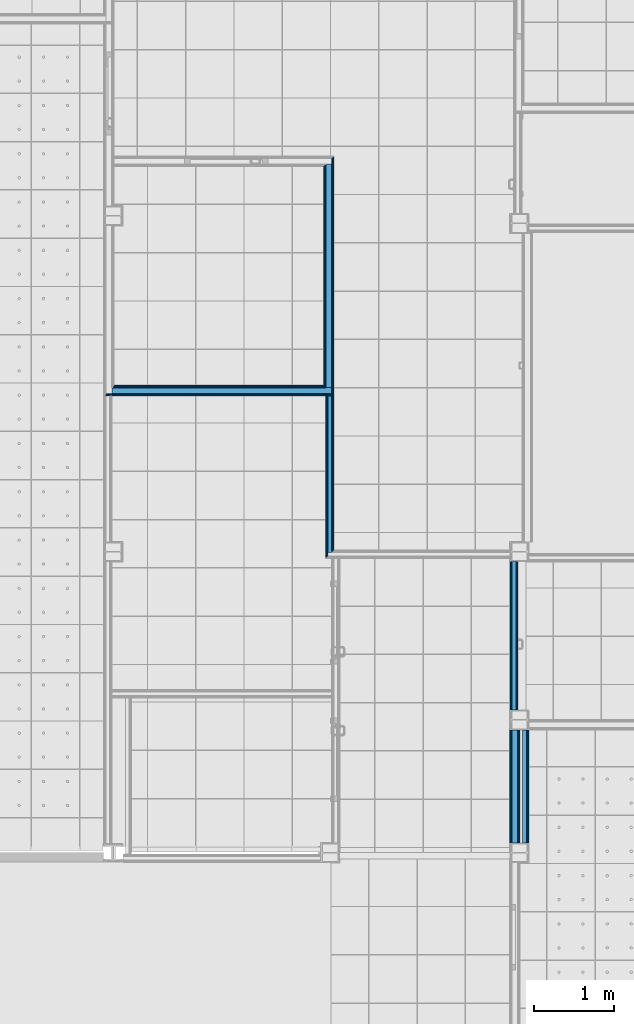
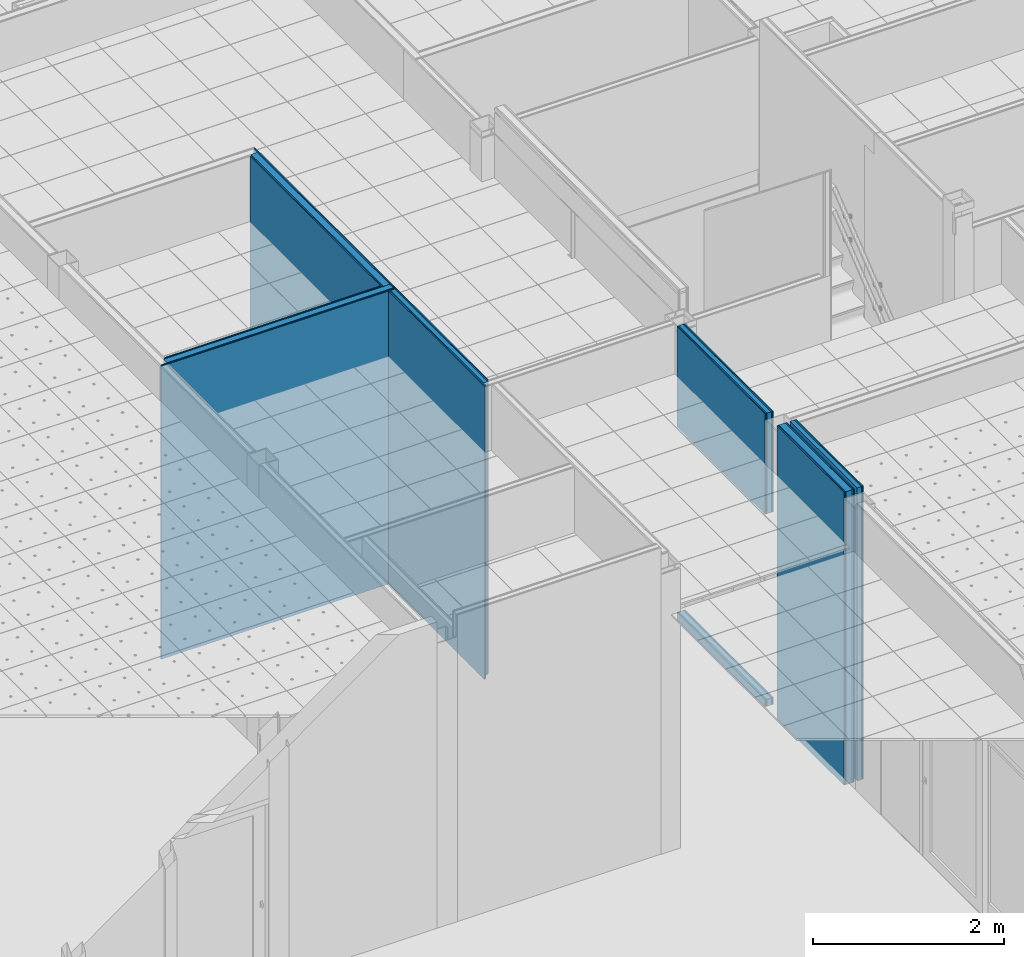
# One storey, part 78 of 338: 28 building element parts, 1 opening, 6 elements without a shape of their own.
"""IFC2X3 building model written with IfcOpenShell, lengths in millimetres."""

from ifc_helpers import new_model, entity, si_unit, converted_unit, derived_unit, money_unit, direction, frame, origin_with_axes, place, context, subcontext, project, spatial, faceted_brep, material, type_object, element, aggregate, save


model = new_model("IFC2X3")

# Units and contexts
model_context = context("Model", 3, precision=0.01, world=origin_with_axes(), true_north=direction((0.0, 1.0)))
plan_context = context("Plan", 3, precision=0.01, world=origin_with_axes(), true_north=direction((0.0, 1.0)))
body_context = subcontext(model_context, "Body", "Model", "MODEL_VIEW")
ifc_project = project(units=[si_unit("LENGTHUNIT", "METRE", prefix="MILLI"), si_unit("AREAUNIT", "SQUARE_METRE"), si_unit("VOLUMEUNIT", "CUBIC_METRE"), converted_unit("PLANEANGLEUNIT", "DEGREE", entity("IfcPlaneAngleMeasure", 0.0174532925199), si_unit("PLANEANGLEUNIT", "RADIAN"), dimensions=[0, 0, 0, 0, 0, 0, 0]), money_unit("EUR"), converted_unit("TIMEUNIT", "Year", entity("IfcTimeMeasure", 31556926.0), si_unit("TIMEUNIT", "SECOND"), dimensions=[0, 0, 1, 0, 0, 0, 0]), si_unit("MASSUNIT", "GRAM", prefix="KILO"), si_unit("THERMODYNAMICTEMPERATUREUNIT", "DEGREE_CELSIUS"), si_unit("LUMINOUSINTENSITYUNIT", "LUMEN"), si_unit("ENERGYUNIT", "JOULE", prefix="MEGA"), derived_unit("THERMALCONDUCTANCEUNIT", [(si_unit("POWERUNIT", "WATT"), 1), (si_unit("LENGTHUNIT", "METRE"), -1), (si_unit("THERMODYNAMICTEMPERATUREUNIT", "KELVIN"), -1)]), derived_unit("SPECIFICHEATCAPACITYUNIT", [(si_unit("ENERGYUNIT", "JOULE"), 1), (si_unit("MASSUNIT", "GRAM", prefix="KILO"), -1), (si_unit("THERMODYNAMICTEMPERATUREUNIT", "KELVIN"), -1)]), derived_unit("MASSDENSITYUNIT", [(si_unit("MASSUNIT", "GRAM", prefix="KILO"), 1), (si_unit("VOLUMEUNIT", "CUBIC_METRE"), -1)])], contexts=[model_context, plan_context])

# Site, building, storey
site_placement = place(None, origin_with_axes())
site = spatial("IfcSite", under=ifc_project, at=site_placement, Name="Fortuinstraat Woensdrecht", CompositionType="ELEMENT")
building_placement = place(site_placement, origin_with_axes())
building = spatial("IfcBuilding", under=site, at=building_placement, Name="IKC Fortuna", CompositionType="ELEMENT")
storey_placement = place(building_placement, origin_with_axes())
storey = spatial("IfcBuildingStorey", under=building, at=storey_placement, Name="00 begane grond", CompositionType="ELEMENT", Elevation=0.0)

# Wall, opening, building element parts
wall_type_1 = type_object("IfcWallType", Name="MS100 2.50.2A 100", PredefinedType="NOTDEFINED")
wall_1_placement = place(storey_placement, frame((25497.9349765, 19799.7966283, -90.0), z_axis=(0.0, 0.0, 1.0), x_axis=(0.0, -1.0, 0.0)))
wall_1 = element("IfcWall", 1, at=wall_1_placement, inside=storey, type_object=wall_type_1, Name="22_Wand_Binnenwand")
opening_placement = place(wall_1_placement, frame((922.5, 0.0, 90.0), z_axis=(0.0, 0.0, 1.0), x_axis=(1.0, 0.0, 0.0)))
element("IfcOpeningElement", 2, at=opening_placement, cuts=wall_1, Name="32_Deur_h.08", context=body_context, shape_type="Brep", body=[
    faceted_brep([(922.5, -100.0, 2367.0), (922.5, -100.0, 0.0), (922.5, 200.0, 0.0), (922.5, 200.0, 2367.0), (-922.5, -100.0, 2367.0), (-922.5, -100.0, 0.0), (-922.5, 200.0, 0.0), (-922.5, 200.0, 2367.0)], [[[0, 1, 2, 3]], [[0, 4, 5, 1]], [[1, 5, 6, 2]], [[3, 2, 6, 7]], [[4, 0, 3, 7]], [[5, 4, 7, 6]]]),
])
ifc_material_1 = material(Name="Gipsplaat")
building_element_part_1_placement = place(wall_1_placement, origin_with_axes())
building_element_part_1 = element("IfcBuildingElementPart", 3, at=building_element_part_1_placement, material=ifc_material_1, Name="Gipsplaat", context=body_context, shape_type="Brep", body=[
    faceted_brep([(0.0, 87.5, 90.0), (0.0, 100.0, 90.0), (0.0, 100.0, 0.0), (0.0, 87.5, 0.0), (1845.0, 100.0, 90.0), (1845.0, 87.5, 90.0), (1845.0, 100.0, 0.0), (1845.0, 87.5, 0.0)], [[[0, 1, 2, 3]], [[4, 1, 0, 5]], [[1, 4, 6, 2]], [[7, 3, 2, 6]], [[5, 0, 3, 7]], [[4, 5, 7, 6]]]),
    faceted_brep([(1845.0, 100.0, 2457.0), (0.0, 100.0, 2457.0), (0.0, 100.0, 3740.0), (1845.0, 100.0, 3740.0), (0.0, 87.5, 2457.0), (1845.0, 87.5, 2457.0), (0.0, 87.5, 3740.0), (1845.0, 87.5, 3740.0)], [[[0, 1, 2, 3]], [[4, 1, 0, 5]], [[1, 4, 6, 2]], [[3, 2, 6, 7]], [[5, 0, 3, 7]], [[4, 5, 7, 6]]]),
])
building_element_part_2_placement = place(wall_1_placement, origin_with_axes())
building_element_part_2 = element("IfcBuildingElementPart", 4, at=building_element_part_2_placement, material=ifc_material_1, Name="Gipsplaat", context=body_context, shape_type="Brep", body=[
    faceted_brep([(0.0, 75.0, 90.0), (0.0, 87.5, 90.0), (0.0, 87.5, 0.0), (0.0, 75.0, 0.0), (1845.0, 87.5, 90.0), (1845.0, 75.0, 90.0), (1845.0, 87.5, 0.0), (1845.0, 75.0, 0.0)], [[[0, 1, 2, 3]], [[4, 1, 0, 5]], [[1, 4, 6, 2]], [[7, 3, 2, 6]], [[5, 0, 3, 7]], [[4, 5, 7, 6]]]),
    faceted_brep([(1845.0, 87.5, 2457.0), (0.0, 87.5, 2457.0), (0.0, 87.5, 3740.0), (1845.0, 87.5, 3740.0), (0.0, 75.0, 2457.0), (1845.0, 75.0, 2457.0), (0.0, 75.0, 3740.0), (1845.0, 75.0, 3740.0)], [[[0, 1, 2, 3]], [[4, 1, 0, 5]], [[1, 4, 6, 2]], [[3, 2, 6, 7]], [[5, 0, 3, 7]], [[4, 5, 7, 6]]]),
])
ifc_material_2 = material(Name="Isolatie - Steenwol LSW")
building_element_part_3_placement = place(wall_1_placement, origin_with_axes())
building_element_part_3 = element("IfcBuildingElementPart", 5, at=building_element_part_3_placement, material=ifc_material_2, Name="Isolatie - Steenwol LSW", context=body_context, shape_type="Brep", body=[
    faceted_brep([(0.0, 25.0, 90.0), (0.0, 75.0, 90.0), (0.0, 75.0, 0.0), (0.0, 25.0, 0.0), (1845.0, 75.0, 90.0), (1845.0, 25.0, 90.0), (1845.0, 75.0, 0.0), (1845.0, 25.0, 0.0)], [[[0, 1, 2, 3]], [[4, 1, 0, 5]], [[1, 4, 6, 2]], [[7, 3, 2, 6]], [[5, 0, 3, 7]], [[4, 5, 7, 6]]]),
    faceted_brep([(1845.0, 75.0, 2457.0), (0.0, 75.0, 2457.0), (0.0, 75.0, 3740.0), (1845.0, 75.0, 3740.0), (0.0, 25.0, 2457.0), (1845.0, 25.0, 2457.0), (0.0, 25.0, 3740.0), (1845.0, 25.0, 3740.0)], [[[0, 1, 2, 3]], [[4, 1, 0, 5]], [[1, 4, 6, 2]], [[3, 2, 6, 7]], [[5, 0, 3, 7]], [[4, 5, 7, 6]]]),
])
building_element_part_4_placement = place(wall_1_placement, origin_with_axes())
building_element_part_4 = element("IfcBuildingElementPart", 6, at=building_element_part_4_placement, material=ifc_material_1, Name="Gipsplaat", context=body_context, shape_type="Brep", body=[
    faceted_brep([(0.0, 12.5, 90.0), (0.0, 25.0, 90.0), (0.0, 25.0, 0.0), (0.0, 12.5, 0.0), (1845.0, 25.0, 90.0), (1845.0, 12.5, 90.0), (1845.0, 25.0, 0.0), (1845.0, 12.5, 0.0)], [[[0, 1, 2, 3]], [[4, 1, 0, 5]], [[1, 4, 6, 2]], [[7, 3, 2, 6]], [[5, 0, 3, 7]], [[4, 5, 7, 6]]]),
    faceted_brep([(1845.0, 25.0, 2457.0), (0.0, 25.0, 2457.0), (0.0, 25.0, 3740.0), (1845.0, 25.0, 3740.0), (0.0, 12.5, 2457.0), (1845.0, 12.5, 2457.0), (0.0, 12.5, 3740.0), (1845.0, 12.5, 3740.0)], [[[0, 1, 2, 3]], [[4, 1, 0, 5]], [[1, 4, 6, 2]], [[3, 2, 6, 7]], [[5, 0, 3, 7]], [[4, 5, 7, 6]]]),
])
building_element_part_5_placement = place(wall_1_placement, origin_with_axes())
building_element_part_5 = element("IfcBuildingElementPart", 7, at=building_element_part_5_placement, material=ifc_material_1, Name="Gipsplaat", context=body_context, shape_type="Brep", body=[
    faceted_brep([(0.0, 0.0, 90.0), (0.0, 12.5, 90.0), (0.0, 12.5, 0.0), (0.0, 0.0, 0.0), (1845.0, 12.5, 90.0), (1845.0, 0.0, 90.0), (1845.0, 12.5, 0.0), (1845.0, 0.0, 0.0)], [[[0, 1, 2, 3]], [[4, 1, 0, 5]], [[1, 4, 6, 2]], [[7, 3, 2, 6]], [[5, 0, 3, 7]], [[4, 5, 7, 6]]]),
    faceted_brep([(1845.0, 12.5, 2457.0), (0.0, 12.5, 2457.0), (0.0, 12.5, 3740.0), (1845.0, 12.5, 3740.0), (0.0, 0.0, 2457.0), (1845.0, 0.0, 2457.0), (0.0, 0.0, 3740.0), (1845.0, 0.0, 3740.0)], [[[0, 1, 2, 3]], [[4, 1, 0, 5]], [[1, 4, 6, 2]], [[3, 2, 6, 7]], [[5, 0, 3, 7]], [[4, 5, 7, 6]]]),
])
aggregate(wall_1, [building_element_part_1, building_element_part_2, building_element_part_3, building_element_part_4, building_element_part_5])

# Wall, building element parts
wall_type_2 = type_object("IfcWallType", Name="MS125 2.75.2A 125", PredefinedType="NOTDEFINED")
wall_2_placement = place(storey_placement, frame((25497.9349765, 17709.7966283, -90.0), z_axis=(0.0, 0.0, 1.0), x_axis=(0.0, -1.0, 0.0)))
wall_2 = element("IfcWall", 8, at=wall_2_placement, inside=storey, type_object=wall_type_2, Name="22_Wand_Binnenwand")
building_element_part_6_placement = place(wall_2_placement, origin_with_axes())
building_element_part_6 = element("IfcBuildingElementPart", 9, at=building_element_part_6_placement, material=ifc_material_1, Name="Gipsplaat", context=body_context, shape_type="Brep", body=[
    faceted_brep([(1405.0, 112.5, 3740.0), (1405.0, 125.0, 3740.0), (0.0, 125.0, 3740.0), (0.0, 112.5, 3740.0), (1405.0, 112.5, 0.0), (1405.0, 125.0, 0.0), (0.0, 125.0, 0.0), (0.0, 112.5, 0.0)], [[[0, 1, 2, 3]], [[0, 4, 5, 1]], [[1, 5, 6, 2]], [[3, 2, 6, 7]], [[4, 0, 3, 7]], [[5, 4, 7, 6]]]),
])
building_element_part_7_placement = place(wall_2_placement, origin_with_axes())
building_element_part_7 = element("IfcBuildingElementPart", 10, at=building_element_part_7_placement, material=ifc_material_1, Name="Gipsplaat", context=body_context, shape_type="Brep", body=[
    faceted_brep([(1405.0, 100.0, 3740.0), (1405.0, 112.5, 3740.0), (0.0, 112.5, 3740.0), (0.0, 100.0, 3740.0), (1405.0, 100.0, 0.0), (1405.0, 112.5, 0.0), (0.0, 112.5, 0.0), (0.0, 100.0, 0.0)], [[[0, 1, 2, 3]], [[0, 4, 5, 1]], [[1, 5, 6, 2]], [[3, 2, 6, 7]], [[4, 0, 3, 7]], [[5, 4, 7, 6]]]),
])
building_element_part_8_placement = place(wall_2_placement, origin_with_axes())
building_element_part_8 = element("IfcBuildingElementPart", 11, at=building_element_part_8_placement, material=ifc_material_2, Name="Isolatie - Steenwol LSW", context=body_context, shape_type="Brep", body=[
    faceted_brep([(1405.0, 25.0, 3740.0), (1405.0, 100.0, 3740.0), (0.0, 100.0, 3740.0), (0.0, 25.0, 3740.0), (1405.0, 25.0, 0.0), (1405.0, 100.0, 0.0), (0.0, 100.0, 0.0), (0.0, 25.0, 0.0)], [[[0, 1, 2, 3]], [[0, 4, 5, 1]], [[1, 5, 6, 2]], [[3, 2, 6, 7]], [[4, 0, 3, 7]], [[5, 4, 7, 6]]]),
])
building_element_part_9_placement = place(wall_2_placement, origin_with_axes())
building_element_part_9 = element("IfcBuildingElementPart", 12, at=building_element_part_9_placement, material=ifc_material_1, Name="Gipsplaat", context=body_context, shape_type="Brep", body=[
    faceted_brep([(1405.0, 12.5, 3740.0), (1405.0, 25.0, 3740.0), (0.0, 25.0, 3740.0), (0.0, 12.5, 3740.0), (1405.0, 12.5, 0.0), (1405.0, 25.0, 0.0), (0.0, 25.0, 0.0), (0.0, 12.5, 0.0)], [[[0, 1, 2, 3]], [[0, 4, 5, 1]], [[1, 5, 6, 2]], [[3, 2, 6, 7]], [[4, 0, 3, 7]], [[5, 4, 7, 6]]]),
])
building_element_part_10_placement = place(wall_2_placement, origin_with_axes())
building_element_part_10 = element("IfcBuildingElementPart", 13, at=building_element_part_10_placement, material=ifc_material_1, Name="Gipsplaat", context=body_context, shape_type="Brep", body=[
    faceted_brep([(1405.0, 0.0, 3740.0), (1405.0, 12.5, 3740.0), (0.0, 12.5, 3740.0), (0.0, 0.0, 3740.0), (1405.0, 0.0, 0.0), (1405.0, 12.5, 0.0), (0.0, 12.5, 0.0), (0.0, 0.0, 0.0)], [[[0, 1, 2, 3]], [[0, 4, 5, 1]], [[1, 5, 6, 2]], [[3, 2, 6, 7]], [[4, 0, 3, 7]], [[5, 4, 7, 6]]]),
])
aggregate(wall_2, [building_element_part_6, building_element_part_7, building_element_part_8, building_element_part_9, building_element_part_10])

wall_3_placement = place(storey_placement, frame((23307.9349765, 21988.1391841, -90.0), z_axis=(0.0, 0.0, 1.0), x_axis=(-1.0, 0.0, 0.0)))
wall_3 = element("IfcWall", 14, at=wall_3_placement, inside=storey, type_object=wall_type_2, Name="22_Wand_Binnenwand")
building_element_part_11_placement = place(wall_3_placement, origin_with_axes())
building_element_part_11 = element("IfcBuildingElementPart", 15, at=building_element_part_11_placement, material=ifc_material_1, Name="Gipsplaat", context=body_context, shape_type="Brep", body=[
    faceted_brep([(2843.5, 125.0, 3740.0), (0.0, 125.0, 3740.0), (0.0, 112.5, 3740.0), (2843.5, 112.5, 3740.0), (2843.5, 125.0, 0.0), (0.0, 125.0, 0.0), (0.0, 112.5, 0.0), (2843.5, 112.5, 0.0)], [[[0, 1, 2, 3]], [[4, 5, 1, 0]], [[2, 1, 5, 6]], [[3, 2, 6, 7]], [[3, 7, 4, 0]], [[7, 6, 5, 4]]]),
])
building_element_part_12_placement = place(wall_3_placement, origin_with_axes())
building_element_part_12 = element("IfcBuildingElementPart", 16, at=building_element_part_12_placement, material=ifc_material_1, Name="Gipsplaat", context=body_context, shape_type="Brep", body=[
    faceted_brep([(2831.0, 112.5, 3740.0), (12.5, 112.5, 3740.0), (12.5, 100.0, 3740.0), (2831.0, 100.0, 3740.0), (2831.0, 112.5, 0.0), (12.5, 112.5, 0.0), (12.5, 100.0, 0.0), (2831.0, 100.0, 0.0)], [[[0, 1, 2, 3]], [[4, 5, 1, 0]], [[2, 1, 5, 6]], [[3, 2, 6, 7]], [[3, 7, 4, 0]], [[7, 6, 5, 4]]]),
])
building_element_part_13_placement = place(wall_3_placement, origin_with_axes())
building_element_part_13 = element("IfcBuildingElementPart", 17, at=building_element_part_13_placement, material=ifc_material_2, Name="Isolatie - Steenwol LSW", context=body_context, shape_type="Brep", body=[
    faceted_brep([(2756.0, 100.0, 3740.0), (25.0, 100.0, 3740.0), (25.0, 25.0, 3740.0), (2756.0, 25.0, 3740.0), (2756.0, 100.0, 0.0), (25.0, 100.0, 0.0), (25.0, 25.0, 0.0), (2756.0, 25.0, 0.0)], [[[0, 1, 2, 3]], [[4, 5, 1, 0]], [[2, 1, 5, 6]], [[3, 2, 6, 7]], [[3, 7, 4, 0]], [[7, 6, 5, 4]]]),
])
building_element_part_14_placement = place(wall_3_placement, origin_with_axes())
building_element_part_14 = element("IfcBuildingElementPart", 18, at=building_element_part_14_placement, material=ifc_material_1, Name="Gipsplaat", context=body_context, shape_type="Brep", body=[
    faceted_brep([(2743.5, 25.0, 3740.0), (100.0, 25.0, 3740.0), (100.0, 12.5, 3740.0), (2743.5, 12.5, 3740.0), (2743.5, 25.0, 0.0), (100.0, 25.0, 0.0), (100.0, 12.5, 0.0), (2743.5, 12.5, 0.0)], [[[0, 1, 2, 3]], [[4, 5, 1, 0]], [[2, 1, 5, 6]], [[3, 2, 6, 7]], [[3, 7, 4, 0]], [[7, 6, 5, 4]]]),
])
building_element_part_15_placement = place(wall_3_placement, origin_with_axes())
building_element_part_15 = element("IfcBuildingElementPart", 19, at=building_element_part_15_placement, material=ifc_material_1, Name="Gipsplaat", context=body_context, shape_type="Brep", body=[
    faceted_brep([(2731.0, 12.5, 3740.0), (112.5, 12.5, 3740.0), (112.5, 0.0, 3740.0), (2731.0, 0.0, 3740.0), (2731.0, 12.5, 0.0), (112.5, 12.5, 0.0), (112.5, 0.0, 0.0), (2731.0, 0.0, 0.0)], [[[0, 1, 2, 3]], [[4, 5, 1, 0]], [[2, 1, 5, 6]], [[3, 2, 6, 7]], [[3, 7, 4, 0]], [[7, 6, 5, 4]]]),
])
aggregate(wall_3, [building_element_part_11, building_element_part_12, building_element_part_13, building_element_part_14, building_element_part_15])

wall_4_placement = place(storey_placement, frame((23307.9349765, 21988.1391841, -90.0), z_axis=(0.0, 0.0, 1.0), x_axis=(0.0, 1.0, 0.0)))
wall_4 = element("IfcWall", 20, at=wall_4_placement, inside=storey, type_object=wall_type_2, Name="22_Wand_Binnenwand")
building_element_part_16_placement = place(wall_4_placement, origin_with_axes())
building_element_part_16 = element("IfcBuildingElementPart", 21, at=building_element_part_16_placement, material=ifc_material_1, Name="Gipsplaat", context=body_context, shape_type="Brep", body=[
    faceted_brep([(2725.05195431, 125.0, 3740.0), (0.0, 125.0, 3740.0), (0.0, 112.5, 3740.0), (2725.05195431, 112.5, 3740.0), (2725.05195431, 125.0, 0.0), (0.0, 125.0, 0.0), (0.0, 112.5, 0.0), (2725.05195431, 112.5, 0.0)], [[[0, 1, 2, 3]], [[4, 5, 1, 0]], [[2, 1, 5, 6]], [[3, 2, 6, 7]], [[3, 7, 4, 0]], [[7, 6, 5, 4]]]),
])
building_element_part_17_placement = place(wall_4_placement, origin_with_axes())
building_element_part_17 = element("IfcBuildingElementPart", 22, at=building_element_part_17_placement, material=ifc_material_1, Name="Gipsplaat", context=body_context, shape_type="Brep", body=[
    faceted_brep([(2737.55195431, 112.5, 3740.0), (-12.5, 112.5, 3740.0), (-12.5, 100.0, 3740.0), (2737.55195431, 100.0, 3740.0), (2737.55195431, 112.5, 0.0), (-12.5, 112.5, 0.0), (-12.5, 100.0, 0.0), (2737.55195431, 100.0, 0.0)], [[[0, 1, 2, 3]], [[4, 5, 1, 0]], [[2, 1, 5, 6]], [[3, 2, 6, 7]], [[3, 7, 4, 0]], [[7, 6, 5, 4]]]),
])
building_element_part_18_placement = place(wall_4_placement, origin_with_axes())
building_element_part_18 = element("IfcBuildingElementPart", 23, at=building_element_part_18_placement, material=ifc_material_2, Name="Isolatie - Steenwol LSW", context=body_context, shape_type="Brep", body=[
    faceted_brep([(2750.05195431, 100.0, 3740.0), (-25.0, 100.0, 3740.0), (-25.0, 25.0, 3740.0), (2750.05195431, 25.0, 3740.0), (2750.05195431, 100.0, 0.0), (-25.0, 100.0, 0.0), (-25.0, 25.0, 0.0), (2750.05195431, 25.0, 0.0)], [[[0, 1, 2, 3]], [[4, 5, 1, 0]], [[2, 1, 5, 6]], [[3, 2, 6, 7]], [[3, 7, 4, 0]], [[7, 6, 5, 4]]]),
])
building_element_part_19_placement = place(wall_4_placement, origin_with_axes())
building_element_part_19 = element("IfcBuildingElementPart", 24, at=building_element_part_19_placement, material=ifc_material_1, Name="Gipsplaat", context=body_context, shape_type="Brep", body=[
    faceted_brep([(2825.05195431, 25.0, 3740.0), (-100.0, 25.0, 3740.0), (-100.0, 12.5, 3740.0), (2825.05195431, 12.5, 3740.0), (2825.05195431, 25.0, 0.0), (-100.0, 25.0, 0.0), (-100.0, 12.5, 0.0), (2825.05195431, 12.5, 0.0)], [[[0, 1, 2, 3]], [[4, 5, 1, 0]], [[2, 1, 5, 6]], [[3, 2, 6, 7]], [[3, 7, 4, 0]], [[7, 6, 5, 4]]]),
])
building_element_part_20_placement = place(wall_4_placement, origin_with_axes())
building_element_part_20 = element("IfcBuildingElementPart", 25, at=building_element_part_20_placement, material=ifc_material_1, Name="Gipsplaat", context=body_context, shape_type="Brep", body=[
    faceted_brep([(2837.55195431, 12.5, 3740.0), (-112.5, 12.5, 3740.0), (-112.5, 0.0, 3740.0), (2837.55195431, 0.0, 3740.0), (2837.55195431, 12.5, 0.0), (-112.5, 12.5, 0.0), (-112.5, 0.0, 0.0), (2837.55195431, 0.0, 0.0)], [[[0, 1, 2, 3]], [[4, 5, 1, 0]], [[2, 1, 5, 6]], [[3, 2, 6, 7]], [[3, 7, 4, 0]], [[7, 6, 5, 4]]]),
])
aggregate(wall_4, [building_element_part_16, building_element_part_17, building_element_part_18, building_element_part_19, building_element_part_20])

wall_5_placement = place(storey_placement, frame((23307.9349765, 19839.7644288, -90.0), z_axis=(0.0, 0.0, 1.0), x_axis=(0.0, 1.0, 0.0)))
wall_5 = element("IfcWall", 26, at=wall_5_placement, inside=storey, type_object=wall_type_1, Name="22_Wand_Binnenwand")
building_element_part_21_placement = place(wall_5_placement, origin_with_axes())
building_element_part_21 = element("IfcBuildingElementPart", 27, at=building_element_part_21_placement, material=ifc_material_1, Name="Gipsplaat", context=body_context, shape_type="Brep", body=[
    faceted_brep([(2023.37475531, 87.5, 3740.0), (2023.37475531, 100.0, 3740.0), (12.5, 100.0, 3740.0), (12.5, 87.5, 3740.0), (2023.37475531, 87.5, 0.0), (2023.37475531, 100.0, 0.0), (12.5, 100.0, 0.0), (12.5, 87.5, 0.0)], [[[0, 1, 2, 3]], [[0, 4, 5, 1]], [[1, 5, 6, 2]], [[3, 2, 6, 7]], [[4, 0, 3, 7]], [[5, 4, 7, 6]]]),
])
building_element_part_22_placement = place(wall_5_placement, origin_with_axes())
building_element_part_22 = element("IfcBuildingElementPart", 28, at=building_element_part_22_placement, material=ifc_material_1, Name="Gipsplaat", context=body_context, shape_type="Brep", body=[
    faceted_brep([(2023.37475531, 75.0, 3740.0), (2023.37475531, 87.5, 3740.0), (25.0, 87.5, 3740.0), (25.0, 75.0, 3740.0), (2023.37475531, 75.0, 0.0), (2023.37475531, 87.5, 0.0), (25.0, 87.5, 0.0), (25.0, 75.0, 0.0)], [[[0, 1, 2, 3]], [[0, 4, 5, 1]], [[1, 5, 6, 2]], [[3, 2, 6, 7]], [[4, 0, 3, 7]], [[5, 4, 7, 6]]]),
])
building_element_part_23_placement = place(wall_5_placement, origin_with_axes())
building_element_part_23 = element("IfcBuildingElementPart", 29, at=building_element_part_23_placement, material=ifc_material_2, Name="Isolatie - Steenwol LSW", context=body_context, shape_type="Brep", body=[
    faceted_brep([(2023.37475531, 25.0, 3740.0), (2023.37475531, 75.0, 3740.0), (75.0, 75.0, 3740.0), (75.0, 25.0, 3740.0), (2023.37475531, 25.0, 0.0), (2023.37475531, 75.0, 0.0), (75.0, 75.0, 0.0), (75.0, 25.0, 0.0)], [[[0, 1, 2, 3]], [[0, 4, 5, 1]], [[1, 5, 6, 2]], [[3, 2, 6, 7]], [[4, 0, 3, 7]], [[5, 4, 7, 6]]]),
])
building_element_part_24_placement = place(wall_5_placement, origin_with_axes())
building_element_part_24 = element("IfcBuildingElementPart", 30, at=building_element_part_24_placement, material=ifc_material_1, Name="Gipsplaat", context=body_context, shape_type="Brep", body=[
    faceted_brep([(2023.37475531, 12.5, 3740.0), (2023.37475531, 25.0, 3740.0), (87.5, 25.0, 3740.0), (87.5, 12.5, 3740.0), (2023.37475531, 12.5, 0.0), (2023.37475531, 25.0, 0.0), (87.5, 25.0, 0.0), (87.5, 12.5, 0.0)], [[[0, 1, 2, 3]], [[0, 4, 5, 1]], [[1, 5, 6, 2]], [[3, 2, 6, 7]], [[4, 0, 3, 7]], [[5, 4, 7, 6]]]),
])
building_element_part_25_placement = place(wall_5_placement, origin_with_axes())
building_element_part_25 = element("IfcBuildingElementPart", 31, at=building_element_part_25_placement, material=ifc_material_1, Name="Gipsplaat", context=body_context, shape_type="Brep", body=[
    faceted_brep([(2023.37475531, 0.0, 3740.0), (2023.37475531, 12.5, 3740.0), (100.0, 12.5, 3740.0), (100.0, 0.0, 3740.0), (2023.37475531, 0.0, 0.0), (2023.37475531, 12.5, 0.0), (100.0, 12.5, 0.0), (100.0, 0.0, 0.0)], [[[0, 1, 2, 3]], [[0, 4, 5, 1]], [[1, 5, 6, 2]], [[3, 2, 6, 7]], [[4, 0, 3, 7]], [[5, 4, 7, 6]]]),
])
aggregate(wall_5, [building_element_part_21, building_element_part_22, building_element_part_23, building_element_part_24, building_element_part_25])

wall_type_3 = type_object("IfcWallType", Name="MS75 50.2A 75", PredefinedType="NOTDEFINED")
wall_6_placement = place(storey_placement, frame((25657.9349765, 16304.7966283, -90.0), z_axis=(0.0, 0.0, 1.0), x_axis=(0.0, 1.0, 0.0)))
wall_6 = element("IfcWall", 32, at=wall_6_placement, inside=storey, type_object=wall_type_3, Name="22_Wand_Binnenwand")
building_element_part_26_placement = place(wall_6_placement, origin_with_axes())
building_element_part_26 = element("IfcBuildingElementPart", 33, at=building_element_part_26_placement, material=ifc_material_2, Name="Isolatie - Steenwol LSW", context=body_context, shape_type="Brep", body=[
    faceted_brep([(1405.0, 0.0, 0.0), (1405.0, -50.0, 0.0), (0.0, -50.0, 0.0), (0.0, 0.0, 0.0), (1405.0, 0.0, 3740.0), (1405.0, -50.0, 3740.0), (0.0, -50.0, 3740.0), (0.0, 0.0, 3740.0)], [[[0, 1, 2, 3]], [[0, 4, 5, 1]], [[1, 5, 6, 2]], [[3, 2, 6, 7]], [[4, 0, 3, 7]], [[5, 4, 7, 6]]]),
])
building_element_part_27_placement = place(wall_6_placement, origin_with_axes())
building_element_part_27 = element("IfcBuildingElementPart", 34, at=building_element_part_27_placement, material=ifc_material_1, Name="Gipsplaat", context=body_context, shape_type="Brep", body=[
    faceted_brep([(1405.0, -50.0, 0.0), (1405.0, -62.5, 0.0), (0.0, -62.5, 0.0), (0.0, -50.0, 0.0), (1405.0, -50.0, 3740.0), (1405.0, -62.5, 3740.0), (0.0, -62.5, 3740.0), (0.0, -50.0, 3740.0)], [[[0, 1, 2, 3]], [[0, 4, 5, 1]], [[1, 5, 6, 2]], [[3, 2, 6, 7]], [[4, 0, 3, 7]], [[5, 4, 7, 6]]]),
])
building_element_part_28_placement = place(wall_6_placement, origin_with_axes())
building_element_part_28 = element("IfcBuildingElementPart", 35, at=building_element_part_28_placement, material=ifc_material_1, Name="Gipsplaat", context=body_context, shape_type="Brep", body=[
    faceted_brep([(1405.0, -62.5, 0.0), (1405.0, -75.0, 0.0), (0.0, -75.0, 0.0), (0.0, -62.5, 0.0), (1405.0, -62.5, 3740.0), (1405.0, -75.0, 3740.0), (0.0, -75.0, 3740.0), (0.0, -62.5, 3740.0)], [[[0, 1, 2, 3]], [[0, 4, 5, 1]], [[1, 5, 6, 2]], [[3, 2, 6, 7]], [[4, 0, 3, 7]], [[5, 4, 7, 6]]]),
])
aggregate(wall_6, [building_element_part_26, building_element_part_27, building_element_part_28])

save(model, "model.ifc")
